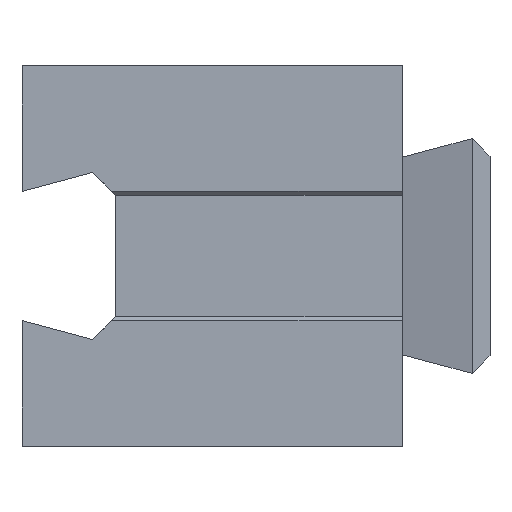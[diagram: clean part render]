
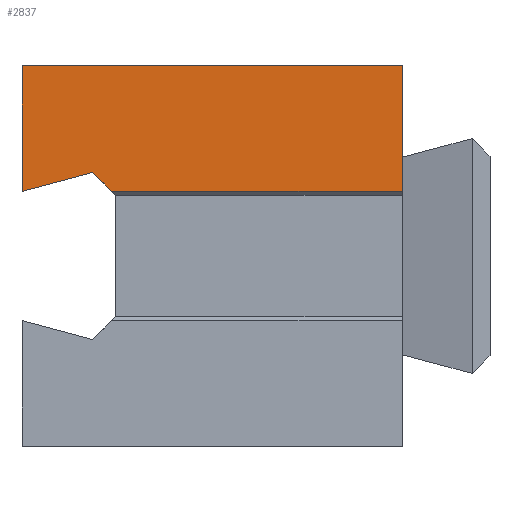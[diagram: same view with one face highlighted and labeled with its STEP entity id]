
A CAD part, left-side view. The second image highlights one B-rep face of the part: STEP entity #2837.
In plain terms, the highlighted planar face has unit normal (-1, 0, 0).
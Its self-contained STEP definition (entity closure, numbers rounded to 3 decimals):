
#113=FACE_OUTER_BOUND('',#261,.T.);
#261=EDGE_LOOP('',(#2210,#2211,#2212,#2213,#2214,#2215));
#531=LINE('',#4153,#935);
#556=LINE('',#4204,#960);
#585=LINE('',#4261,#989);
#586=LINE('',#4263,#990);
#587=LINE('',#4265,#991);
#588=LINE('',#4266,#992);
#935=VECTOR('',#3393,10.);
#960=VECTOR('',#3434,10.);
#989=VECTOR('',#3487,10.);
#990=VECTOR('',#3488,10.);
#991=VECTOR('',#3489,10.);
#992=VECTOR('',#3490,10.);
#1263=VERTEX_POINT('',#4151);
#1264=VERTEX_POINT('',#4152);
#1282=VERTEX_POINT('',#4203);
#1298=VERTEX_POINT('',#4260);
#1299=VERTEX_POINT('',#4262);
#1300=VERTEX_POINT('',#4264);
#1591=EDGE_CURVE('',#1263,#1264,#531,.T.);
#1616=EDGE_CURVE('',#1282,#1263,#556,.T.);
#1645=EDGE_CURVE('',#1264,#1298,#585,.T.);
#1646=EDGE_CURVE('',#1299,#1298,#586,.T.);
#1647=EDGE_CURVE('',#1299,#1300,#587,.T.);
#1648=EDGE_CURVE('',#1282,#1300,#588,.T.);
#2210=ORIENTED_EDGE('',*,*,#1616,.T.);
#2211=ORIENTED_EDGE('',*,*,#1591,.T.);
#2212=ORIENTED_EDGE('',*,*,#1645,.T.);
#2213=ORIENTED_EDGE('',*,*,#1646,.F.);
#2214=ORIENTED_EDGE('',*,*,#1647,.T.);
#2215=ORIENTED_EDGE('',*,*,#1648,.F.);
#2689=PLANE('',#2987);
#2837=ADVANCED_FACE('',(#113),#2689,.T.);
#2987=AXIS2_PLACEMENT_3D('',#4259,#3485,#3486);
#3393=DIRECTION('',(0.,-0.707,-0.707));
#3434=DIRECTION('',(0.,-0.966,0.259));
#3485=DIRECTION('center_axis',(-1.,0.,0.));
#3486=DIRECTION('ref_axis',(0.,0.,1.));
#3487=DIRECTION('',(0.,-1.,0.));
#3488=DIRECTION('',(0.,0.,-1.));
#3489=DIRECTION('',(0.,1.,0.));
#3490=DIRECTION('',(0.,0.,1.));
#4151=CARTESIAN_POINT('',(-5.,8.145,7.197));
#4152=CARTESIAN_POINT('',(-5.,7.648,6.7));
#4153=CARTESIAN_POINT('',(-5.,5.634,4.686));
#4203=CARTESIAN_POINT('',(-5.,10.,6.7));
#4204=CARTESIAN_POINT('',(-5.,5.32,7.954));
#4259=CARTESIAN_POINT('Origin',(-5.,1.5,5.));
#4260=CARTESIAN_POINT('',(-5.,0.,6.7));
#4261=CARTESIAN_POINT('',(-5.,0.75,6.7));
#4262=CARTESIAN_POINT('',(-5.,0.,10.));
#4263=CARTESIAN_POINT('',(-5.,0.,2.5));
#4264=CARTESIAN_POINT('',(-5.,10.,10.));
#4265=CARTESIAN_POINT('',(-5.,3.,10.));
#4266=CARTESIAN_POINT('',(-5.,10.,7.5));
